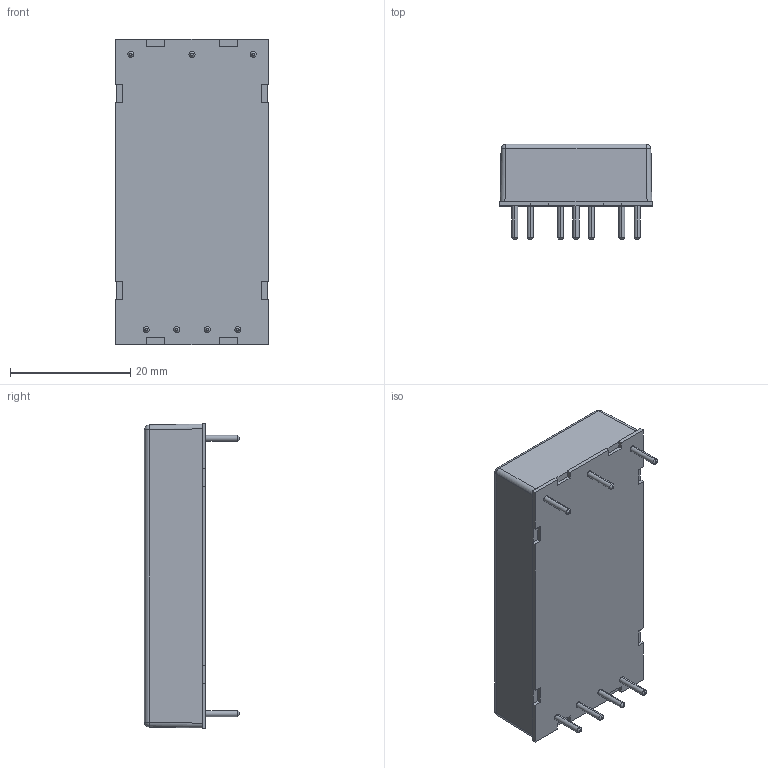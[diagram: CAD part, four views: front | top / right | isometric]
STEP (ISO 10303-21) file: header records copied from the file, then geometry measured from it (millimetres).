
FILE_DESCRIPTION (( 'STEP AP214' ), '1' );
FILE_NAME ('TEN 30UIR_TEN 40UIR.STEP', '2023-09-08T07:08:30', ( '' ), ( '' ), 'SwSTEP 2.0', 'SolidWorks 2016', '' );
FILE_SCHEMA (( 'AUTOMOTIVE_DESIGN' ));
Length unit declared in the file: millimetre
Products named in the file (1): TEN 30UIR_TEN 40UIR
Bounding box: 25.4 x 15.8 x 50.8 mm (x, y, z)
Volume: 12857.7 mm3; surface area: 4155.6 mm2
Topology: 1 solids, 1 shells, 105 faces, 246 edges, 150 vertices
Faces by surface type: plane 65, cylinder 22, cone 14, sphere 4
Entity records: 3357 total; most frequent: CARTESIAN_POINT 514, DIRECTION 508, ORIENTED_EDGE 492, EDGE_CURVE 246, LINE 188, VECTOR 188, AXIS2_PLACEMENT_3D 160, VERTEX_POINT 150
